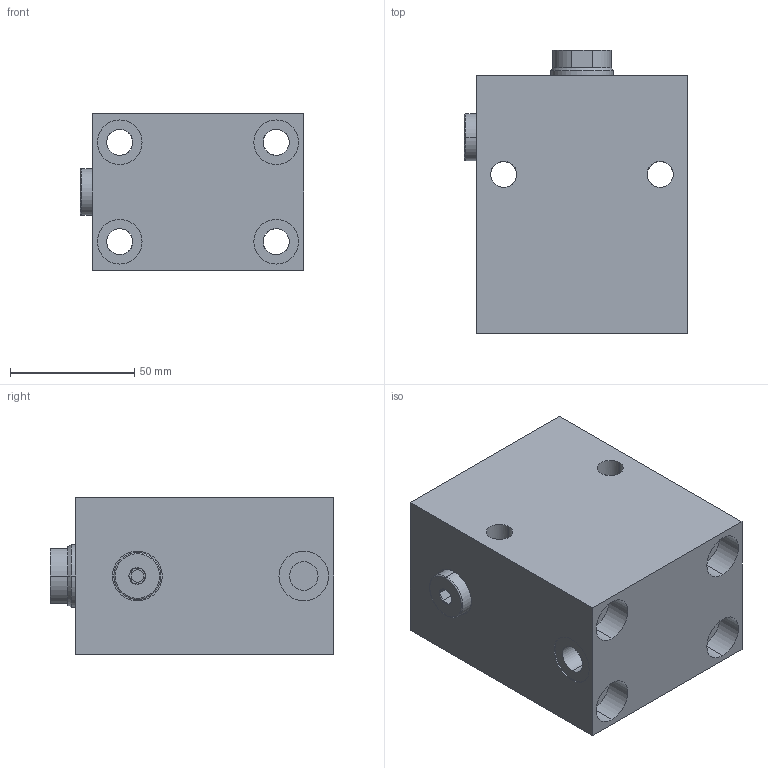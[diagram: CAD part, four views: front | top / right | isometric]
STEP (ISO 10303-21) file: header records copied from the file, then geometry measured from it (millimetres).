
FILE_DESCRIPTION (( 'STEP AP203' ), '1' );
FILE_NAME ('GERMA_Blockzylinder_650-040-020.STEP', '2023-08-26T15:41:33', ( '' ), ( '' ), 'SwSTEP 2.0', 'SolidWorks 2016', '' );
FILE_SCHEMA (( 'CONFIG_CONTROL_DESIGN' ));
Length unit declared in the file: millimetre
Products named in the file (3): Kolben 60x-040_Kolben DU.40-Hub50-IG; GH-600-040-ew_GH-650-040-020; GERMA_Blockzylinder_650-040-020
Assembly tree (2 placements, depth 2):
  GERMA_Blockzylinder_650-040-020
    GH-600-040-ew_GH-650-040-020
    Kolben 60x-040_Kolben DU.40-Hub50-IG
Bounding box: 89.8 x 114 x 63 mm (x, y, z)
Volume: 479117.9 mm3; surface area: 83219.8 mm2
Topology: 2 solids, 2 shells, 139 faces, 323 edges, 198 vertices
Faces by surface type: cylinder 77, plane 39, cone 21, torus 2
Entity records: 4309 total; most frequent: CARTESIAN_POINT 818, DIRECTION 710, ORIENTED_EDGE 634, EDGE_CURVE 317, AXIS2_PLACEMENT_3D 288, VERTEX_POINT 198, EDGE_LOOP 175, CIRCLE 144
